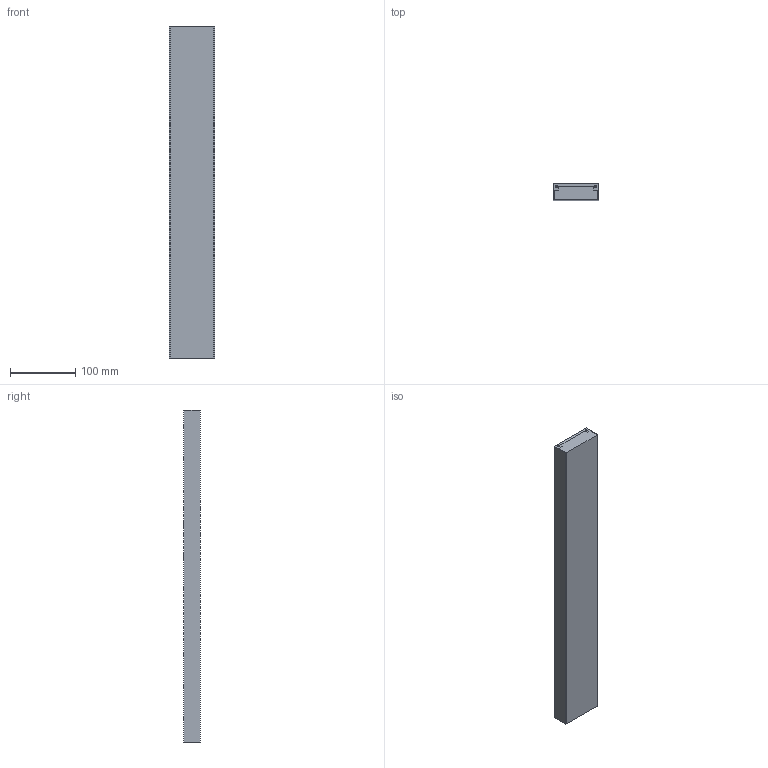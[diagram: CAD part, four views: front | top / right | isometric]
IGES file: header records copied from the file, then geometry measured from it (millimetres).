
Global section: file name: No Iges File Name specified; native system: AutoDesk Inventor R12.0; preprocessor: AutoDesk Inventor Iges Exporter R12.0; date: 20081121.152132; units: inch
Bounding box: 70 x 25.4 x 510 mm (x, y, z)
Volume: 902323.5 mm3; surface area: 104875.3 mm2
Topology: 1 solids, 1 shells, 140 faces, 342 edges, 188 vertices
Faces by surface type: bspline 96, plane 28, cylinder 16
